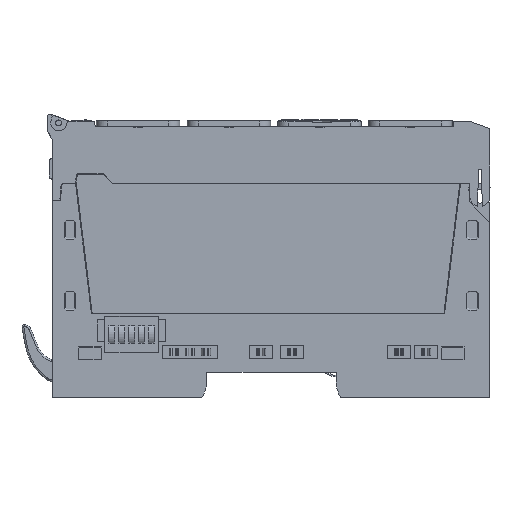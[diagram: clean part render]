
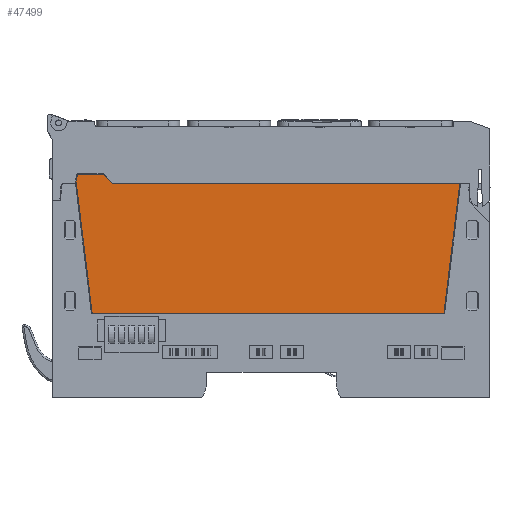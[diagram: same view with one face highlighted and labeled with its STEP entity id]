
A CAD part, top view. The second image highlights one B-rep face of the part: STEP entity #47499.
In plain terms, the highlighted planar face has unit normal (0, 0, 1).
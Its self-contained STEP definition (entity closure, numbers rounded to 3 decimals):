
#47439=AXIS2_PLACEMENT_3D('Plane Axis2P3D',#47436,#47437,#47438) ;
#47471=AXIS2_PLACEMENT_3D('Circle Axis2P3D',#47469,#47470,$) ;
#43639=CARTESIAN_POINT('Vertex',(47.15,16.1,11.5)) ;
#43642=CARTESIAN_POINT('Line Origine',(-0.9,16.1,11.5)) ;
#43646=CARTESIAN_POINT('Vertex',(-48.95,16.1,11.5)) ;
#47414=CARTESIAN_POINT('Vertex',(51.497,51.5,11.5)) ;
#47417=CARTESIAN_POINT('Line Origine',(49.323,33.8,11.5)) ;
#47436=CARTESIAN_POINT('Axis2P3D Location',(0.,0.,11.5)) ;
#47441=CARTESIAN_POINT('Line Origine',(-51.123,33.8,11.5)) ;
#47445=CARTESIAN_POINT('Vertex',(-53.297,51.5,11.5)) ;
#47448=CARTESIAN_POINT('Line Origine',(4.05,51.5,11.5)) ;
#47452=CARTESIAN_POINT('Vertex',(-43.396,51.5,11.5)) ;
#47455=CARTESIAN_POINT('Line Origine',(-44.684,52.8,11.5)) ;
#47459=CARTESIAN_POINT('Vertex',(-45.971,54.1,11.5)) ;
#47462=CARTESIAN_POINT('Line Origine',(-49.265,54.1,11.5)) ;
#47466=CARTESIAN_POINT('Vertex',(-52.558,54.1,11.5)) ;
#47469=CARTESIAN_POINT('Axis2P3D Location',(-52.558,53.6,11.5)) ;
#47473=CARTESIAN_POINT('Vertex',(-53.051,53.686,11.5)) ;
#47476=CARTESIAN_POINT('Line Origine',(-53.174,52.982,11.5)) ;
#47480=CARTESIAN_POINT('Vertex',(-53.297,52.277,11.5)) ;
#47483=CARTESIAN_POINT('Line Origine',(-53.297,51.889,11.5)) ;
#43643=DIRECTION('Vector Direction',(-1.,0.,0.)) ;
#47418=DIRECTION('Vector Direction',(0.122,0.993,0.)) ;
#47437=DIRECTION('Axis2P3D Direction',(0.,0.,1.)) ;
#47438=DIRECTION('Axis2P3D XDirection',(1.,0.,0.)) ;
#47442=DIRECTION('Vector Direction',(0.122,-0.993,0.)) ;
#47449=DIRECTION('Vector Direction',(1.,0.,0.)) ;
#47456=DIRECTION('Vector Direction',(-0.704,0.71,0.)) ;
#47463=DIRECTION('Vector Direction',(-1.,0.,0.)) ;
#47470=DIRECTION('Axis2P3D Direction',(0.,0.,1.)) ;
#47477=DIRECTION('Vector Direction',(-0.172,-0.985,0.)) ;
#47484=DIRECTION('Vector Direction',(0.,-1.,0.)) ;
#43644=VECTOR('Line Direction',#43643,1.) ;
#47419=VECTOR('Line Direction',#47418,1.) ;
#47443=VECTOR('Line Direction',#47442,1.) ;
#47450=VECTOR('Line Direction',#47449,1.) ;
#47457=VECTOR('Line Direction',#47456,1.) ;
#47464=VECTOR('Line Direction',#47463,1.) ;
#47478=VECTOR('Line Direction',#47477,1.) ;
#47485=VECTOR('Line Direction',#47484,1.) ;
#47489=ORIENTED_EDGE('',*,*,#47447,.T.) ;
#47490=ORIENTED_EDGE('',*,*,#43648,.T.) ;
#47491=ORIENTED_EDGE('',*,*,#47421,.T.) ;
#47492=ORIENTED_EDGE('',*,*,#47454,.T.) ;
#47493=ORIENTED_EDGE('',*,*,#47461,.T.) ;
#47494=ORIENTED_EDGE('',*,*,#47468,.T.) ;
#47495=ORIENTED_EDGE('',*,*,#47475,.T.) ;
#47496=ORIENTED_EDGE('',*,*,#47482,.T.) ;
#47497=ORIENTED_EDGE('',*,*,#47487,.T.) ;
#47499=ADVANCED_FACE('SP_UR20_EM.1\\SP_UR20_HO_EM.1\\ELGH_BASIC',(#47498),#47440,.T.) ;
#47472=CIRCLE('generated circle',#47471,0.5) ;
#43648=EDGE_CURVE('',#43647,#43640,#43645,.F.) ;
#47421=EDGE_CURVE('',#43640,#47415,#47420,.T.) ;
#47447=EDGE_CURVE('',#47446,#43647,#47444,.T.) ;
#47454=EDGE_CURVE('',#47415,#47453,#47451,.F.) ;
#47461=EDGE_CURVE('',#47453,#47460,#47458,.T.) ;
#47468=EDGE_CURVE('',#47460,#47467,#47465,.T.) ;
#47475=EDGE_CURVE('',#47467,#47474,#47472,.T.) ;
#47482=EDGE_CURVE('',#47474,#47481,#47479,.T.) ;
#47487=EDGE_CURVE('',#47481,#47446,#47486,.T.) ;
#47488=EDGE_LOOP('',(#47489,#47490,#47491,#47492,#47493,#47494,#47495,#47496,#47497)) ;
#47498=FACE_OUTER_BOUND('',#47488,.T.) ;
#43645=LINE('Line',#43642,#43644) ;
#47420=LINE('Line',#47417,#47419) ;
#47444=LINE('Line',#47441,#47443) ;
#47451=LINE('Line',#47448,#47450) ;
#47458=LINE('Line',#47455,#47457) ;
#47465=LINE('Line',#47462,#47464) ;
#47479=LINE('Line',#47476,#47478) ;
#47486=LINE('Line',#47483,#47485) ;
#47440=PLANE('',#47439) ;
#43640=VERTEX_POINT('',#43639) ;
#43647=VERTEX_POINT('',#43646) ;
#47415=VERTEX_POINT('',#47414) ;
#47446=VERTEX_POINT('',#47445) ;
#47453=VERTEX_POINT('',#47452) ;
#47460=VERTEX_POINT('',#47459) ;
#47467=VERTEX_POINT('',#47466) ;
#47474=VERTEX_POINT('',#47473) ;
#47481=VERTEX_POINT('',#47480) ;
